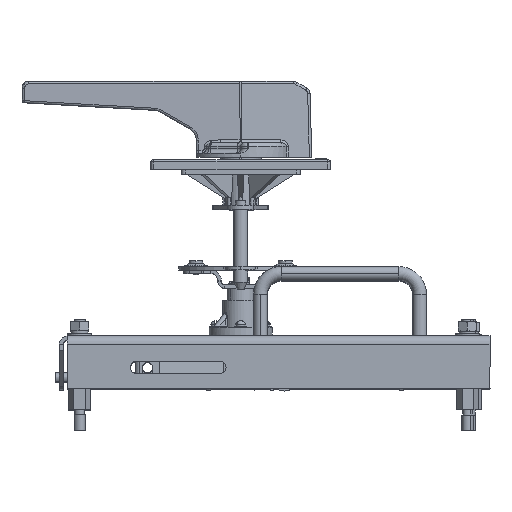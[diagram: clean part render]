
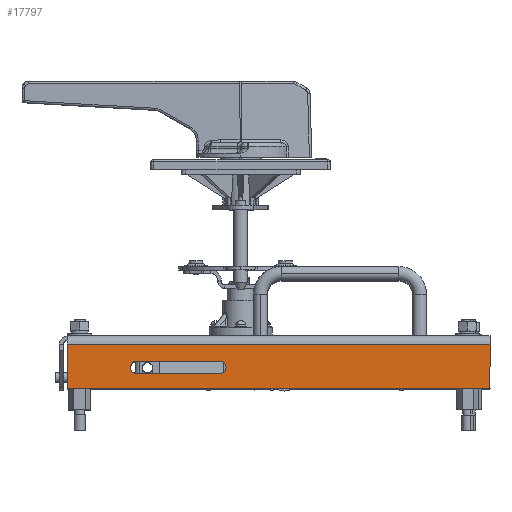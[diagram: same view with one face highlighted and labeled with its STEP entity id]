
A CAD part, top view. The second image highlights one B-rep face of the part: STEP entity #17797.
In plain terms, the highlighted planar face has unit normal (0, 0, 1).
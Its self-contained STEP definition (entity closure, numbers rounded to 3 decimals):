
#2370 = EDGE_CURVE ( 'NONE', #67272, #67278, #111687, .T. ) ;
#2372 = EDGE_CURVE ( 'NONE', #67255, #67278, #111690, .T. ) ;
#2378 = EDGE_CURVE ( 'NONE', #67272, #67281, #111698, .T. ) ;
#2383 = EDGE_CURVE ( 'NONE', #67270, #67280, #111702, .T. ) ;
#2384 = EDGE_CURVE ( 'NONE', #67267, #67270, #111696, .T. ) ;
#2385 = EDGE_CURVE ( 'NONE', #67267, #67286, #111704, .T. ) ;
#2386 = EDGE_CURVE ( 'NONE', #67280, #67286, #111706, .T. ) ;
#2387 = EDGE_CURVE ( 'NONE', #67281, #67255, #111707, .T. ) ;
#17797 = ADVANCED_FACE ( 'NONE', ( #43084, #43089 ), #30919, .T. ) ;
#30919 = PLANE ( 'NONE',  #81845 ) ;
#30931 = CARTESIAN_POINT ( 'NONE',  ( -136.45, 147.9, 271.35 ) ) ;
#30933 = DIRECTION ( 'NONE',  ( 0., 0., 1. ) ) ;
#30935 = DIRECTION ( 'NONE',  ( 0., 1., 0. ) ) ;
#39332 = DIRECTION ( 'NONE',  ( -1., 0., 0. ) ) ;
#39341 = CARTESIAN_POINT ( 'NONE',  ( -136.45, 144.9, 271.35 ) ) ;
#39359 = CARTESIAN_POINT ( 'NONE',  ( -136.45, 147.9, 271.35 ) ) ;
#39363 = DIRECTION ( 'NONE',  ( 0., 1., 0. ) ) ;
#39375 = CARTESIAN_POINT ( 'NONE',  ( 168.55, 112.9, 271.35 ) ) ;
#39378 = DIRECTION ( 'NONE',  ( 0., -1., 0. ) ) ;
#39384 = CARTESIAN_POINT ( 'NONE',  ( 254.728, 123.6, 271.35 ) ) ;
#39385 = DIRECTION ( 'NONE',  ( 1., 0., 0. ) ) ;
#39387 = DIRECTION ( 'NONE',  ( 1., 0., 0. ) ) ;
#39392 = CARTESIAN_POINT ( 'NONE',  ( 254.728, 132.6, 271.35 ) ) ;
#39394 = CARTESIAN_POINT ( 'NONE',  ( -86.45, 128.1, 271.35 ) ) ;
#39396 = DIRECTION ( 'NONE',  ( 0., 0., 1. ) ) ;
#39397 = DIRECTION ( 'NONE',  ( 0., 1., 0. ) ) ;
#39399 = DIRECTION ( 'NONE',  ( -1., 0., 0. ) ) ;
#39404 = CARTESIAN_POINT ( 'NONE',  ( -136.45, 112.9, 271.35 ) ) ;
#39406 = CARTESIAN_POINT ( 'NONE',  ( -26.45, 128.1, 271.35 ) ) ;
#39408 = DIRECTION ( 'NONE',  ( 0., 0., 1. ) ) ;
#39410 = DIRECTION ( 'NONE',  ( 0., 1., 0. ) ) ;
#43084 = FACE_BOUND ( 'NONE', #66633, .T. ) ;
#43089 = FACE_OUTER_BOUND ( 'NONE', #66639, .T. ) ;
#45618 = AXIS2_PLACEMENT_3D ( 'NONE', #39406, #39408, #39410 ) ;
#45619 = AXIS2_PLACEMENT_3D ( 'NONE', #39394, #39396, #39397 ) ;
#66633 = EDGE_LOOP ( 'NONE', ( #96404, #96406, #96407, #96408 ) ) ;
#66639 = EDGE_LOOP ( 'NONE', ( #96410, #96409, #96411, #95933 ) ) ;
#67255 = VERTEX_POINT ( 'NONE', #92631 ) ;
#67267 = VERTEX_POINT ( 'NONE', #92643 ) ;
#67270 = VERTEX_POINT ( 'NONE', #92646 ) ;
#67272 = VERTEX_POINT ( 'NONE', #92648 ) ;
#67278 = VERTEX_POINT ( 'NONE', #92654 ) ;
#67280 = VERTEX_POINT ( 'NONE', #92656 ) ;
#67281 = VERTEX_POINT ( 'NONE', #92657 ) ;
#67286 = VERTEX_POINT ( 'NONE', #92662 ) ;
#81845 = AXIS2_PLACEMENT_3D ( 'NONE', #30931, #30933, #30935 ) ;
#92631 = CARTESIAN_POINT ( 'NONE',  ( -136.45, 112.9, 271.35 ) ) ;
#92643 = CARTESIAN_POINT ( 'NONE',  ( -86.45, 132.6, 271.35 ) ) ;
#92646 = CARTESIAN_POINT ( 'NONE',  ( -86.45, 123.6, 271.35 ) ) ;
#92648 = CARTESIAN_POINT ( 'NONE',  ( 168.55, 144.9, 271.35 ) ) ;
#92654 = CARTESIAN_POINT ( 'NONE',  ( -136.45, 144.9, 271.35 ) ) ;
#92656 = CARTESIAN_POINT ( 'NONE',  ( -26.45, 123.6, 271.35 ) ) ;
#92657 = CARTESIAN_POINT ( 'NONE',  ( 168.55, 112.9, 271.35 ) ) ;
#92662 = CARTESIAN_POINT ( 'NONE',  ( -26.45, 132.6, 271.35 ) ) ;
#95933 = ORIENTED_EDGE ( 'NONE', *, *, #2387, .F. ) ;
#96404 = ORIENTED_EDGE ( 'NONE', *, *, #2383, .F. ) ;
#96406 = ORIENTED_EDGE ( 'NONE', *, *, #2384, .F. ) ;
#96407 = ORIENTED_EDGE ( 'NONE', *, *, #2385, .T. ) ;
#96408 = ORIENTED_EDGE ( 'NONE', *, *, #2386, .F. ) ;
#96409 = ORIENTED_EDGE ( 'NONE', *, *, #2370, .T. ) ;
#96410 = ORIENTED_EDGE ( 'NONE', *, *, #2378, .F. ) ;
#96411 = ORIENTED_EDGE ( 'NONE', *, *, #2372, .F. ) ;
#111687 = LINE ( 'NONE', #39341, #111689 ) ;
#111689 = VECTOR ( 'NONE', #39332, 1000. ) ;
#111690 = LINE ( 'NONE', #39359, #111693 ) ;
#111693 = VECTOR ( 'NONE', #39363, 1000. ) ;
#111696 = CIRCLE ( 'NONE', #45619, 4.5 ) ;
#111698 = LINE ( 'NONE', #39375, #111701 ) ;
#111701 = VECTOR ( 'NONE', #39378, 1000. ) ;
#111702 = LINE ( 'NONE', #39384, #111705 ) ;
#111704 = LINE ( 'NONE', #39392, #111708 ) ;
#111705 = VECTOR ( 'NONE', #39387, 1000. ) ;
#111706 = CIRCLE ( 'NONE', #45618, 4.5 ) ;
#111707 = LINE ( 'NONE', #39404, #111711 ) ;
#111708 = VECTOR ( 'NONE', #39385, 1000. ) ;
#111711 = VECTOR ( 'NONE', #39399, 1000. ) ;
